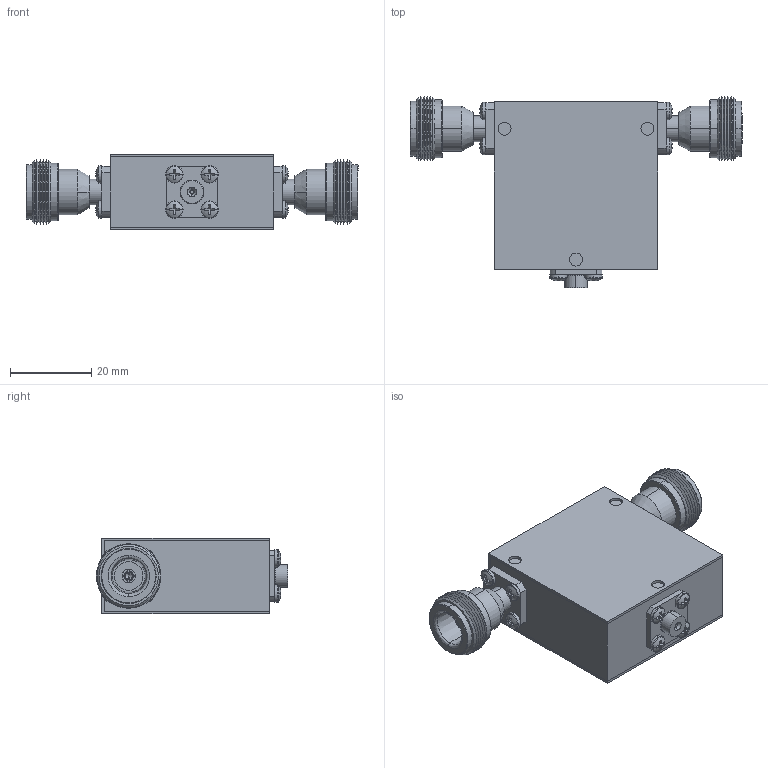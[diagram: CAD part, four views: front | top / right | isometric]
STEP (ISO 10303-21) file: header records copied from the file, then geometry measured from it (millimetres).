
FILE_DESCRIPTION (( 'STEP AP214' ), '1' );
FILE_NAME ('Package 7 Iso FF Type-N.step', '2021-12-01T21:01:52', ( '' ), ( '' ), 'SwSTEP 2.0', 'SolidWorks 2016', '' );
FILE_SCHEMA (( 'AUTOMOTIVE_DESIGN' ));
Length unit declared in the file: inch
Products named in the file (6): Package 7; Package Size 7; Package 7 Iso FF Type-N; pan cross head_ai_CR-PHMS 0.086-56x0.125x0.125-N; 030013-1A; Type-N Female 0.500 flange
Assembly tree (17 placements, depth 2):
  Package 7 Iso FF Type-N
    Package Size 7
    Package 7
    Type-N Female 0.500 flange  x2
    pan cross head_ai_CR-PHMS 0.086-56x0.125x0.125-N  x12
    030013-1A
Bounding box: 81.48 x 46.91 x 18.54 mm (x, y, z)
Volume: 34747.7 mm3; surface area: 19291.2 mm2
Topology: 17 solids, 17 shells, 584 faces, 1330 edges, 814 vertices
Faces by surface type: plane 278, cylinder 160, cone 92, torus 26, sphere 24, bspline 4
Entity records: 6487 total; most frequent: DIRECTION 1169, CARTESIAN_POINT 1131, ORIENTED_EDGE 978, EDGE_CURVE 489, AXIS2_PLACEMENT_3D 473, VERTEX_POINT 307, EDGE_LOOP 252, CIRCLE 248
